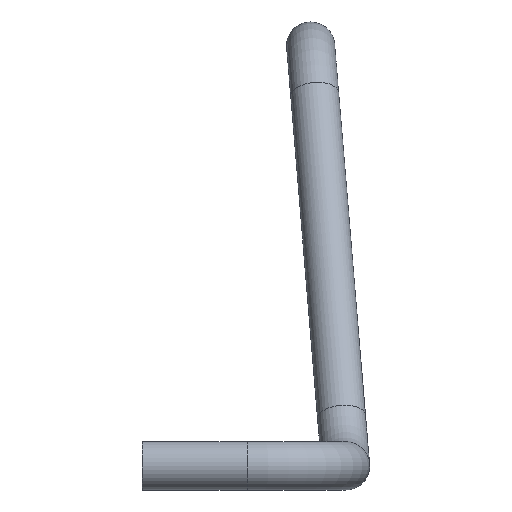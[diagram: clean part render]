
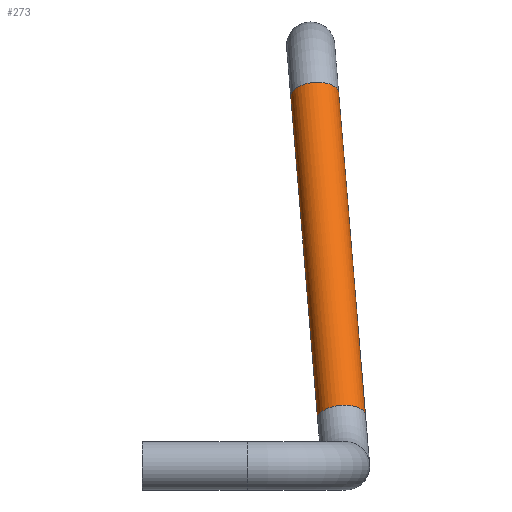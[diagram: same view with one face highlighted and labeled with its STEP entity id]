
A CAD part, left-side view. The second image highlights one B-rep face of the part: STEP entity #273.
In plain terms, the highlighted cylindrical face has radius 11 mm (diameter 22 mm), a full revolution.
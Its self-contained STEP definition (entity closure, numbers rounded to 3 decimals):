
#22=LINE('',#487,#30);
#30=VECTOR('',#379,11.);
#38=CYLINDRICAL_SURFACE('',#316,11.);
#49=FACE_OUTER_BOUND('',#66,.T.);
#66=EDGE_LOOP('',(#192,#193,#194,#195,#196,#197));
#85=CIRCLE('',#317,11.);
#86=CIRCLE('',#318,11.);
#87=CIRCLE('',#319,11.);
#88=CIRCLE('',#320,11.);
#119=VERTEX_POINT('',#483);
#120=VERTEX_POINT('',#484);
#121=VERTEX_POINT('',#486);
#122=VERTEX_POINT('',#488);
#148=EDGE_CURVE('',#119,#120,#85,.T.);
#149=EDGE_CURVE('',#119,#121,#22,.T.);
#150=EDGE_CURVE('',#121,#122,#86,.T.);
#151=EDGE_CURVE('',#122,#121,#87,.T.);
#152=EDGE_CURVE('',#120,#119,#88,.T.);
#192=ORIENTED_EDGE('',*,*,#148,.F.);
#193=ORIENTED_EDGE('',*,*,#149,.T.);
#194=ORIENTED_EDGE('',*,*,#150,.T.);
#195=ORIENTED_EDGE('',*,*,#151,.T.);
#196=ORIENTED_EDGE('',*,*,#149,.F.);
#197=ORIENTED_EDGE('',*,*,#152,.F.);
#273=ADVANCED_FACE('',(#49),#38,.T.);
#316=AXIS2_PLACEMENT_3D('',#482,#375,#376);
#317=AXIS2_PLACEMENT_3D('',#485,#377,#378);
#318=AXIS2_PLACEMENT_3D('',#489,#380,#381);
#319=AXIS2_PLACEMENT_3D('',#490,#382,#383);
#320=AXIS2_PLACEMENT_3D('',#491,#384,#385);
#375=DIRECTION('center_axis',(0.505,0.072,0.86));
#376=DIRECTION('ref_axis',(-0.072,0.997,-0.041));
#377=DIRECTION('center_axis',(0.505,0.072,0.86));
#378=DIRECTION('ref_axis',(-0.862,0.,0.506));
#379=DIRECTION('',(-0.505,-0.072,-0.86));
#380=DIRECTION('center_axis',(0.505,0.072,0.86));
#381=DIRECTION('ref_axis',(-0.862,0.,0.506));
#382=DIRECTION('center_axis',(0.505,0.072,0.86));
#383=DIRECTION('ref_axis',(-0.862,0.,0.506));
#384=DIRECTION('center_axis',(0.505,0.072,0.86));
#385=DIRECTION('ref_axis',(-0.862,0.,0.506));
#482=CARTESIAN_POINT('Origin',(536.375,-1045.,418.5));
#483=CARTESIAN_POINT('',(580.505,-1049.812,492.756));
#484=CARTESIAN_POINT('',(589.21,-1039.311,486.769));
#485=CARTESIAN_POINT('Origin',(579.717,-1038.85,492.306));
#486=CARTESIAN_POINT('',(493.821,-1062.113,345.145));
#487=CARTESIAN_POINT('',(537.163,-1055.962,418.951));
#488=CARTESIAN_POINT('',(483.539,-1050.689,350.231));
#489=CARTESIAN_POINT('Origin',(493.033,-1051.15,344.694));
#490=CARTESIAN_POINT('Origin',(493.033,-1051.15,344.694));
#491=CARTESIAN_POINT('Origin',(579.717,-1038.85,492.306));
